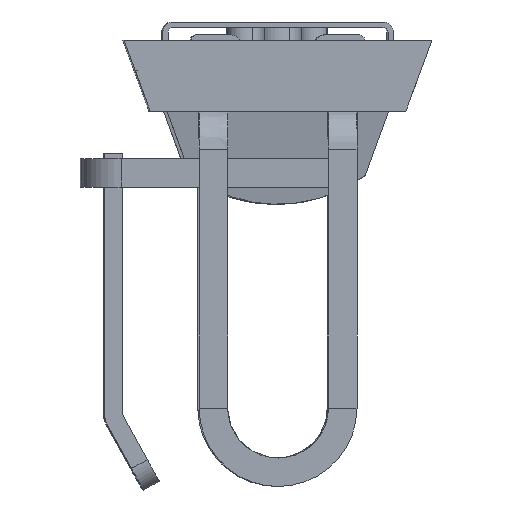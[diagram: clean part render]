
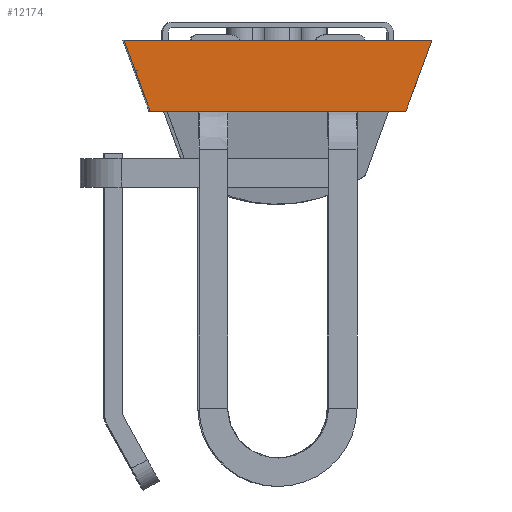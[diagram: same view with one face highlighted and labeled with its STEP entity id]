
A CAD part, left-side view. The second image highlights one B-rep face of the part: STEP entity #12174.
In plain terms, the highlighted planar face has unit normal (-1, -0.001, 0) as drawn and (0, 0, 1) by its records, which use the part's own axes.
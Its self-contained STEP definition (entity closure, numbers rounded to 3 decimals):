
#686=FACE_OUTER_BOUND('',#1355,.T.);
#1355=EDGE_LOOP('',(#8611,#8612,#8613,#8614));
#2199=LINE('',#18365,#3483);
#2204=LINE('',#18374,#3488);
#2218=LINE('',#18408,#3502);
#2220=LINE('',#18411,#3504);
#3483=VECTOR('',#14507,10.);
#3488=VECTOR('',#14514,10.);
#3502=VECTOR('',#14554,10.);
#3504=VECTOR('',#14558,10.);
#5190=VERTEX_POINT('',#18362);
#5191=VERTEX_POINT('',#18364);
#5194=VERTEX_POINT('',#18372);
#5201=VERTEX_POINT('',#18407);
#6481=EDGE_CURVE('',#5191,#5190,#2199,.T.);
#6486=EDGE_CURVE('',#5190,#5194,#2204,.T.);
#6503=EDGE_CURVE('',#5201,#5191,#2218,.T.);
#6505=EDGE_CURVE('',#5194,#5201,#2220,.T.);
#8611=ORIENTED_EDGE('',*,*,#6481,.T.);
#8612=ORIENTED_EDGE('',*,*,#6486,.T.);
#8613=ORIENTED_EDGE('',*,*,#6505,.T.);
#8614=ORIENTED_EDGE('',*,*,#6503,.T.);
#11760=PLANE('',#13052);
#12174=ADVANCED_FACE('',(#686),#11760,.T.);
#13052=AXIS2_PLACEMENT_3D('',#18412,#14559,#14560);
#14507=DIRECTION('',(0.,-1.,0.));
#14514=DIRECTION('',(0.939,0.345,0.));
#14554=DIRECTION('',(-0.939,0.345,0.));
#14558=DIRECTION('',(0.,1.,0.));
#14559=DIRECTION('center_axis',(0.,0.,1.));
#14560=DIRECTION('ref_axis',(1.,0.,0.));
#18362=CARTESIAN_POINT('',(-10.214,-50.791,458.));
#18364=CARTESIAN_POINT('',(-10.214,8.663,458.));
#18365=CARTESIAN_POINT('',(-10.214,-39.573,458.));
#18372=CARTESIAN_POINT('',(3.486,-45.761,458.));
#18374=CARTESIAN_POINT('',(3.486,-45.761,458.));
#18407=CARTESIAN_POINT('',(3.486,3.633,458.));
#18408=CARTESIAN_POINT('',(-13.214,9.764,458.));
#18411=CARTESIAN_POINT('',(3.486,-21.064,458.));
#18412=CARTESIAN_POINT('Origin',(-5.563,-21.064,458.));
